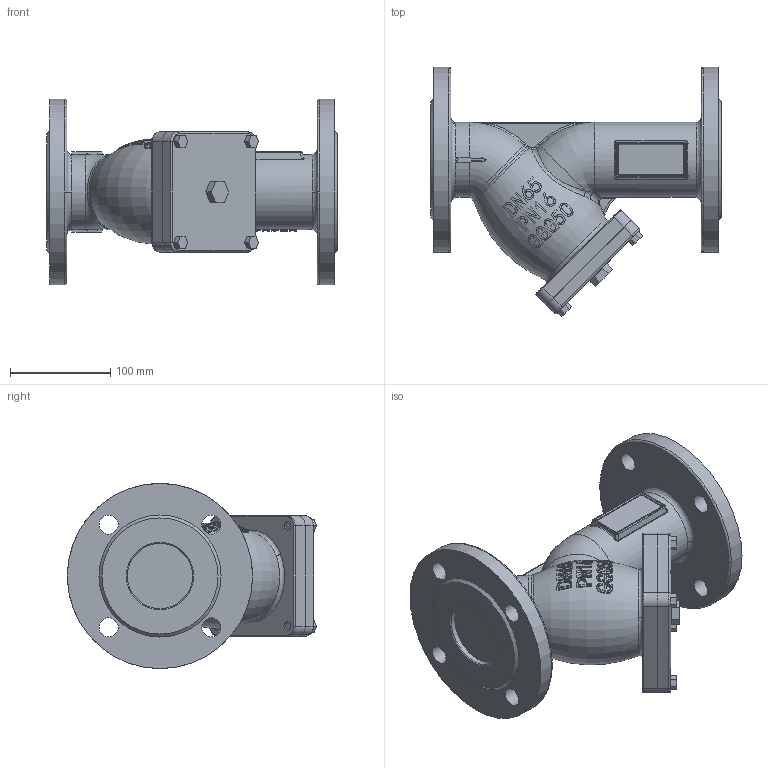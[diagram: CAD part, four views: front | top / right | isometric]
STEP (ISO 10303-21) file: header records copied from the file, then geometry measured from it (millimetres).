
FILE_DESCRIPTION (( 'STEP AP214' ), '1' );
FILE_NAME ('DN65.STEP', '2026-09-13T12:53:44', ( '' ), ( '' ), 'SwSTEP 2.0', 'SolidWorks 2024', '' );
FILE_SCHEMA (( 'AUTOMOTIVE_DESIGN' ));
Length unit declared in the file: millimetre
Products named in the file (1): DN65
Bounding box: 290 x 248.98 x 185 mm (x, y, z)
Volume: 2957353.6 mm3; surface area: 269850.9 mm2
Topology: 1 solids, 4 shells, 499 faces, 1260 edges, 809 vertices
Faces by surface type: plane 205, bspline 158, cylinder 86, torus 46, cone 4
Full cylindrical faces by diameter (mm): 9 x4, 10 x4, 19 x9, 65 x2, 75 x1, 78 x1, 185 x2
Entity records: 37444 total; most frequent: CARTESIAN_POINT 22174, ORIENTED_EDGE 2388, DIRECTION 1495, EDGE_CURVE 1194, VERTEX_POINT 791, EDGE_LOOP 611, AXIS2_PLACEMENT_3D 539, FACE_OUTER_BOUND 534
